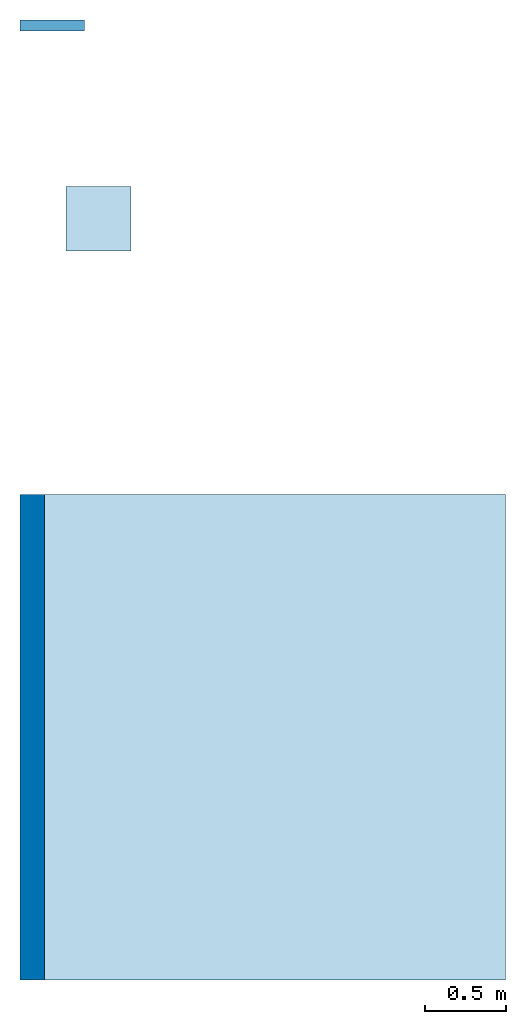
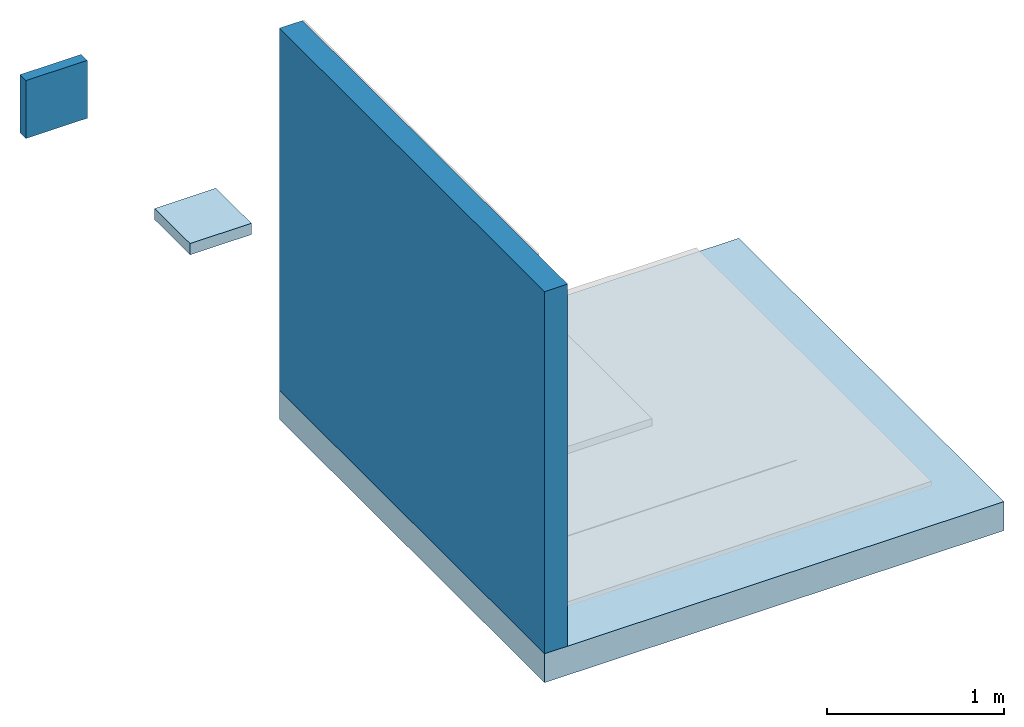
# One storey, part 1 of 2: 2 slabs, 2 walls.
"""IFC2X3 building model written with IfcOpenShell, lengths in metres."""

from ifc_helpers import new_model, entity, si_unit, converted_unit, derived_unit, direction, frame, frame_2d, origin, origin_2d_with_axis, place, context, subcontext, project, spatial, rectangle, extrude, material, layer, layer_set, layer_usage, type_object, element, save


model = new_model("IFC2X3")

# Units and contexts
model_context = context("Model", 3, precision=1e-05, world=origin(), true_north=direction((6.123031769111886e-17, 1.0)))
body_context = subcontext(model_context, "Body", "Model", "MODEL_VIEW")
ifc_project = project(units=[si_unit("LENGTHUNIT", "METRE"), si_unit("AREAUNIT", "SQUARE_METRE"), si_unit("VOLUMEUNIT", "CUBIC_METRE"), converted_unit("PLANEANGLEUNIT", "DEGREE", entity("IfcRatioMeasure", 0.017453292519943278), si_unit("PLANEANGLEUNIT", "RADIAN"), dimensions=[0, 0, 0, 0, 0, 0, 0]), si_unit("MASSUNIT", "GRAM", prefix="KILO"), derived_unit("MASSDENSITYUNIT", [(si_unit("MASSUNIT", "GRAM", prefix="KILO"), 1), (si_unit("LENGTHUNIT", "METRE"), -3)]), derived_unit("IONCONCENTRATIONUNIT", [(si_unit("MASSUNIT", "GRAM", prefix="KILO"), 1), (si_unit("LENGTHUNIT", "METRE"), -3)]), derived_unit("MOMENTOFINERTIAUNIT", [(si_unit("LENGTHUNIT", "METRE"), 4)]), si_unit("TIMEUNIT", "SECOND"), si_unit("FREQUENCYUNIT", "HERTZ"), si_unit("THERMODYNAMICTEMPERATUREUNIT", "DEGREE_CELSIUS"), derived_unit("THERMALTRANSMITTANCEUNIT", [(si_unit("MASSUNIT", "GRAM", prefix="KILO"), 1), (si_unit("THERMODYNAMICTEMPERATUREUNIT", "KELVIN"), -1), (si_unit("TIMEUNIT", "SECOND"), -3)]), derived_unit("THERMALCONDUCTANCEUNIT", [(si_unit("MASSUNIT", "GRAM", prefix="KILO"), 1), (si_unit("THERMODYNAMICTEMPERATUREUNIT", "KELVIN"), -1), (si_unit("TIMEUNIT", "SECOND"), -3), (si_unit("LENGTHUNIT", "METRE"), 1)]), derived_unit("VOLUMETRICFLOWRATEUNIT", [(si_unit("LENGTHUNIT", "METRE"), 3), (si_unit("TIMEUNIT", "SECOND"), -1)]), derived_unit("MASSFLOWRATEUNIT", [(si_unit("MASSUNIT", "GRAM", prefix="KILO"), 1), (si_unit("TIMEUNIT", "SECOND"), -1)]), derived_unit("ROTATIONALFREQUENCYUNIT", [(si_unit("TIMEUNIT", "SECOND"), -1)]), si_unit("ELECTRICCURRENTUNIT", "AMPERE"), si_unit("ELECTRICVOLTAGEUNIT", "VOLT"), si_unit("POWERUNIT", "WATT"), si_unit("FORCEUNIT", "NEWTON", prefix="KILO"), si_unit("ILLUMINANCEUNIT", "LUX"), si_unit("LUMINOUSFLUXUNIT", "LUMEN"), si_unit("LUMINOUSINTENSITYUNIT", "CANDELA"), derived_unit("USERDEFINED", [(si_unit("MASSUNIT", "GRAM", prefix="KILO"), -1), (si_unit("LENGTHUNIT", "METRE"), -2), (si_unit("TIMEUNIT", "SECOND"), 3), (si_unit("LUMINOUSFLUXUNIT", "LUMEN"), 1)]), derived_unit("USERDEFINED", [(si_unit("MASSUNIT", "GRAM", prefix="KILO"), 1), (si_unit("TIMEUNIT", "SECOND"), -3), (si_unit("LENGTHUNIT", "METRE"), 3), (si_unit("ELECTRICCURRENTUNIT", "AMPERE"), -2)]), derived_unit("SOUNDPOWERUNIT", [(si_unit("MASSUNIT", "GRAM", prefix="KILO"), 1), (si_unit("TIMEUNIT", "SECOND"), -3), (si_unit("LENGTHUNIT", "METRE"), 2)]), derived_unit("SOUNDPRESSUREUNIT", [(si_unit("MASSUNIT", "GRAM", prefix="KILO"), 1), (si_unit("LENGTHUNIT", "METRE"), -1), (si_unit("TIMEUNIT", "SECOND"), -2)]), derived_unit("LINEARVELOCITYUNIT", [(si_unit("LENGTHUNIT", "METRE"), 1), (si_unit("TIMEUNIT", "SECOND"), -1)]), si_unit("PRESSUREUNIT", "PASCAL"), derived_unit("USERDEFINED", [(si_unit("MASSUNIT", "GRAM", prefix="KILO"), 1), (si_unit("LENGTHUNIT", "METRE"), -2), (si_unit("TIMEUNIT", "SECOND"), -2)]), derived_unit("LINEARFORCEUNIT", [(si_unit("MASSUNIT", "GRAM", prefix="KILO"), 1), (si_unit("TIMEUNIT", "SECOND"), -2)]), derived_unit("PLANARFORCEUNIT", [(si_unit("MASSUNIT", "GRAM", prefix="KILO"), 1), (si_unit("LENGTHUNIT", "METRE"), -1), (si_unit("TIMEUNIT", "SECOND"), -2)]), derived_unit("SPECIFICHEATCAPACITYUNIT", [(si_unit("THERMODYNAMICTEMPERATUREUNIT", "KELVIN"), -1), (si_unit("LENGTHUNIT", "METRE"), 2), (si_unit("TIMEUNIT", "SECOND"), -2)]), derived_unit("HEATINGVALUEUNIT", [(si_unit("LENGTHUNIT", "METRE"), 2), (si_unit("TIMEUNIT", "SECOND"), -2)]), derived_unit("VAPORPERMEABILITYUNIT", [(si_unit("LENGTHUNIT", "METRE"), -1), (si_unit("TIMEUNIT", "SECOND"), 1)]), derived_unit("DYNAMICVISCOSITYUNIT", [(si_unit("MASSUNIT", "GRAM", prefix="KILO"), 1), (si_unit("TIMEUNIT", "SECOND"), -1), (si_unit("LENGTHUNIT", "METRE"), -1)]), derived_unit("THERMALEXPANSIONCOEFFICIENTUNIT", [(si_unit("THERMODYNAMICTEMPERATUREUNIT", "KELVIN"), -1)]), derived_unit("MODULUSOFELASTICITYUNIT", [(si_unit("MASSUNIT", "GRAM", prefix="KILO"), 1), (si_unit("LENGTHUNIT", "METRE"), -1), (si_unit("TIMEUNIT", "SECOND"), -2)]), derived_unit("ISOTHERMALMOISTURECAPACITYUNIT", [(si_unit("LENGTHUNIT", "METRE"), 3), (si_unit("MASSUNIT", "GRAM", prefix="KILO"), -1)]), derived_unit("MOISTUREDIFFUSIVITYUNIT", [(si_unit("TIMEUNIT", "SECOND"), -1), (si_unit("LENGTHUNIT", "METRE"), 2)])], contexts=[model_context])

# Site, building, storey
site_placement = place(None, origin())
site = spatial("IfcSite", under=ifc_project, at=site_placement, Name="Default", CompositionType="ELEMENT")
building_placement = place(site_placement, origin())
building = spatial("IfcBuilding", under=site, at=building_placement, CompositionType="ELEMENT")
storey_placement = place(building_placement, frame((0.0, 0.0, -0.0025237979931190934)))
storey = spatial("IfcBuildingStorey", under=building, at=storey_placement, Name="ARQ Térreo", CompositionType="ELEMENT", Elevation=-0.0025237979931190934)

# Slabs
ifc_material_1 = material(Name="#concreto")
ifc_layer_1 = layer(ifc_material_1, 0.2)
ifc_layer_set_1 = layer_set([ifc_layer_1], Name="Piso:Piso:LAJE CONCRETO")
ifc_layer_usage_1 = layer_usage(ifc_layer_set_1, "AXIS3", "POSITIVE", 0.0)
slab_type_1 = type_object("IfcSlabType", Name="Piso:Piso:LAJE CONCRETO", PredefinedType="FLOOR", material=ifc_layer_set_1)
slab_1_placement = place(storey_placement, origin())
element("IfcSlab", 1, at=slab_1_placement, inside=storey, type_object=slab_type_1, material=ifc_layer_usage_1, Name="Piso:Piso:LAJE CONCRETO", ObjectType="Piso:Piso:LAJE CONCRETO", PredefinedType="FLOOR", context=body_context, shape_type="SweptSolid", body=[
    extrude(rectangle(XDim=3.0000000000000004, YDim=3.0000000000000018, at=origin_2d_with_axis()), frame((0.9980295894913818, -1.354129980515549, 0.0), z_axis=(0.0, 0.0, -1.0), x_axis=(0.0, 1.0, 0.0)), (0.0, 0.0, 1.0), 0.2),
])
ifc_material_2 = material(Name="#revestimento")
ifc_layer_2 = layer(ifc_material_2, 0.005)
ifc_material_3 = material(Name="#proteção mecânica")
ifc_layer_3 = layer(ifc_material_3, 0.05)
ifc_material_4 = material(Name="#Manta Viapol Antirruido")
ifc_layer_4 = layer(ifc_material_4, 0.003)
ifc_material_5 = material(Name="#argamassa")
ifc_layer_5 = layer(ifc_material_5, 0.02)
ifc_layer_set_2 = layer_set([ifc_layer_2, ifc_layer_3, ifc_layer_4, ifc_layer_5], Name="Piso:IMPH_MANTA VIAPOL ANTIRRUID0")
ifc_layer_usage_2 = layer_usage(ifc_layer_set_2, "AXIS3", "POSITIVE", 0.0)
slab_type_2 = type_object("IfcSlabType", Name="Piso:IMPH_MANTA VIAPOL ANTIRRUID0", PredefinedType="FLOOR", material=ifc_layer_set_2)
slab_2_placement = place(storey_placement, origin())
element("IfcSlab", 2, at=slab_2_placement, inside=storey, type_object=slab_type_2, material=ifc_layer_usage_2, Name="Piso:IMPH_MANTA VIAPOL ANTIRRUID0", ObjectType="Piso:IMPH_MANTA VIAPOL ANTIRRUID0", PredefinedType="FLOOR", context=body_context, shape_type="SweptSolid", body=[
    extrude(rectangle(XDim=0.4, YDim=0.4, at=origin_2d_with_axis()), frame((-0.01614191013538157, 1.8510407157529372, 0.0), z_axis=(0.0, 0.0, -1.0), x_axis=(0.0, 1.0, 0.0)), (0.0, 0.0, 1.0), 0.078),
])

# Walls
ifc_layer_6 = layer(ifc_material_1, 0.14999999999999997)
ifc_layer_set_3 = layer_set([ifc_layer_6], Name="Parede básica:Parede básica:Parede Concreto")
ifc_layer_usage_3 = layer_usage(ifc_layer_set_3, "AXIS2", "NEGATIVE", 0.07499999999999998)
wall_type_1 = type_object("IfcWallType", Name="Parede básica:Parede básica:Parede Concreto", PredefinedType="STANDARD", material=ifc_layer_set_3)
wall_1_placement = place(storey_placement, frame((-0.4269704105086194, 0.14587001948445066, 0.0), z_axis=(0.0, 0.0, 1.0), x_axis=(0.0, -1.0, 0.0)))
element("IfcWallStandardCase", 3, at=wall_1_placement, inside=storey, type_object=wall_type_1, material=ifc_layer_usage_3, Name="Parede básica:Parede Concreto", ObjectType="Parede básica:Parede Concreto", context=body_context, shape_type="SweptSolid", body=[
    extrude(rectangle(XDim=2.9999999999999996, YDim=0.15000000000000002, at=frame_2d((1.4999999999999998, 0.0), x_axis=(-1.0, 0.0))), origin(), (0.0, 0.0, 1.0), 2.4999999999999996),
])
ifc_layer_7 = layer(ifc_material_2, 0.005)
ifc_layer_8 = layer(ifc_material_3, 0.05)
ifc_layer_9 = layer(ifc_material_4, 0.003)
ifc_layer_10 = layer(ifc_material_5, 0.01)
ifc_layer_set_4 = layer_set([ifc_layer_7, ifc_layer_8, ifc_layer_9, ifc_layer_10], Name="Parede básica:IMPV_MANTA VIAPOL ANTIRRUIDO")
ifc_layer_usage_4 = layer_usage(ifc_layer_set_4, "AXIS2", "POSITIVE", -0.034)
wall_type_2 = type_object("IfcWallType", Name="Parede básica:IMPV_MANTA VIAPOL ANTIRRUIDO", PredefinedType="STANDARD", material=ifc_layer_set_4)
wall_2_placement = place(storey_placement, frame((-0.5019704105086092, 3.0458700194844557, 0.0)))
element("IfcWallStandardCase", 4, at=wall_2_placement, inside=storey, type_object=wall_type_2, material=ifc_layer_usage_4, Name="Parede básica:IMPV_T4PP", ObjectType="Parede básica:IMPV_T4PP", context=body_context, shape_type="SweptSolid", body=[
    extrude(rectangle(XDim=0.4000000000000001, YDim=0.0679999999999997, at=frame_2d((0.20000000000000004, -1.0408340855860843e-16), x_axis=(-1.0, 0.0))), origin(), (0.0, 0.0, 1.0), 0.4),
])

save(model, "model.ifc")
